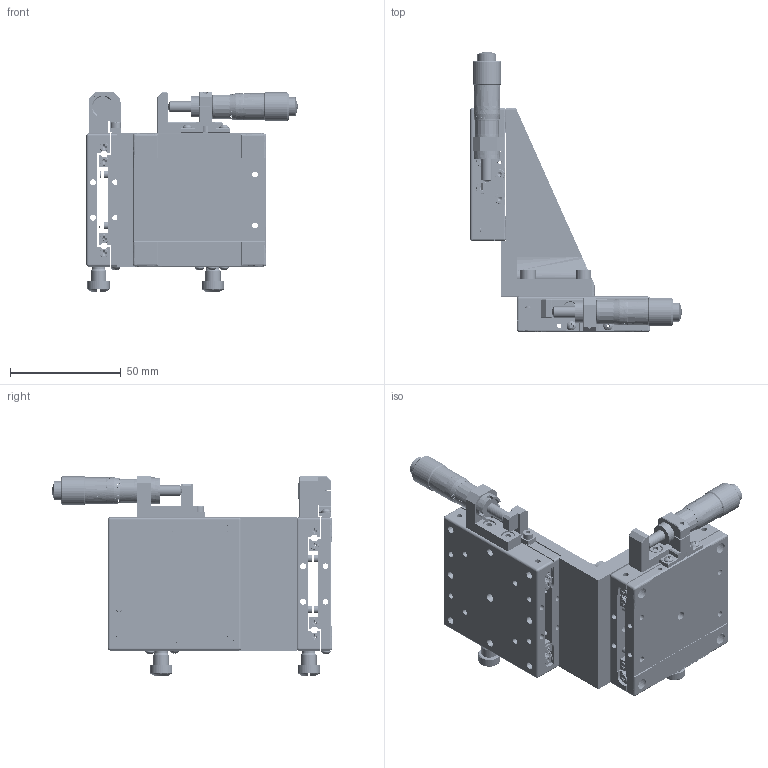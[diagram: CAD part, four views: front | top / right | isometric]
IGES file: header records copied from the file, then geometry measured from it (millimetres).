
Start section: SolidWorks IGES file using analytic representation for surfaces
Bounding box: 95.25 x 126.2 x 89.8 mm (x, y, z)
Surface area: 70567.4 mm2 (no closed solid volume)
Topology: 0 solids, 0 shells, 1529 faces, 30118 edges, 30044 vertices
Faces by surface type: bspline 890, revolution 639
